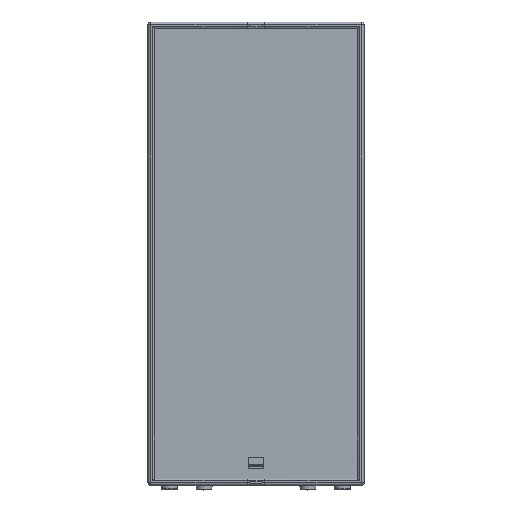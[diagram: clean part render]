
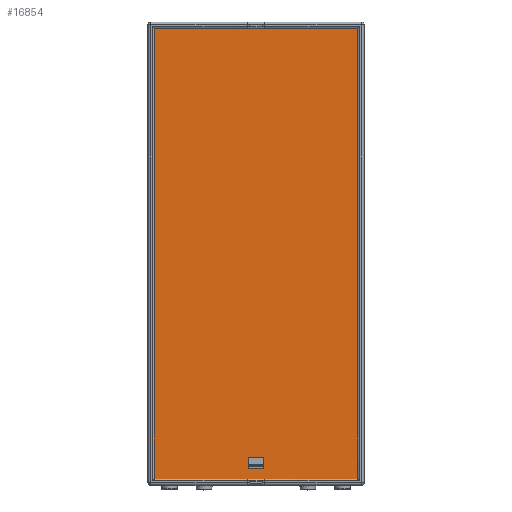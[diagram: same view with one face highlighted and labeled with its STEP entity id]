
A CAD part, top view. The second image highlights one B-rep face of the part: STEP entity #16854.
In plain terms, the highlighted planar face has unit normal (0, 0, 1) as drawn and (0, -1, 0) by its records, which use the part's own axes.
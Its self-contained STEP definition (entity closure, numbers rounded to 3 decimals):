
#5958 = DIRECTION ( 'NONE',  ( 0., 0., -1. ) ) ;
#5959 = DIRECTION ( 'NONE',  ( 0., -1., 0. ) ) ;
#5960 = CARTESIAN_POINT ( 'NONE',  ( 497., 4., 0. ) ) ;
#5961 = AXIS2_PLACEMENT_3D ( 'NONE', #5960, #5959, #5958 ) ;
#5962 = PLANE ( 'NONE',  #5961 ) ;
#5963 = FACE_OUTER_BOUND ( 'NONE', #16855, .T. ) ;
#6021 = CARTESIAN_POINT ( 'NONE',  ( 497., 4., 0. ) ) ;
#6022 = DIRECTION ( 'NONE',  ( -1., 0., 0. ) ) ;
#6023 = VECTOR ( 'NONE', #6022, 1000. ) ;
#6024 = CARTESIAN_POINT ( 'NONE',  ( 256., 4., 0. ) ) ;
#6025 = LINE ( 'NONE', #6024, #6023 ) ;
#6071 = DIRECTION ( 'NONE',  ( 0., 0., 1. ) ) ;
#6072 = VECTOR ( 'NONE', #6071, 1000. ) ;
#6073 = CARTESIAN_POINT ( 'NONE',  ( 15., 4., 0. ) ) ;
#6074 = LINE ( 'NONE', #6073, #6072 ) ;
#6075 = CARTESIAN_POINT ( 'NONE',  ( 15., 4., 1068. ) ) ;
#6076 = DIRECTION ( 'NONE',  ( -1., 0., 0. ) ) ;
#6077 = VECTOR ( 'NONE', #6076, 1000. ) ;
#6078 = CARTESIAN_POINT ( 'NONE',  ( 15., 4., 1068. ) ) ;
#6079 = LINE ( 'NONE', #6078, #6077 ) ;
#6080 = CARTESIAN_POINT ( 'NONE',  ( 497., 4., 1068. ) ) ;
#6081 = DIRECTION ( 'NONE',  ( 0., 0., -1. ) ) ;
#6082 = VECTOR ( 'NONE', #6081, 1000. ) ;
#6083 = CARTESIAN_POINT ( 'NONE',  ( 497., 4., 0. ) ) ;
#6084 = LINE ( 'NONE', #6083, #6082 ) ;
#6085 = CARTESIAN_POINT ( 'NONE',  ( 15., 4., 0. ) ) ;
#16854 = ADVANCED_FACE ( 'NONE', ( #5963 ), #5962, .T. ) ;
#16855 = EDGE_LOOP ( 'NONE', ( #16856, #16910, #16913, #16916 ) ) ;
#16856 = ORIENTED_EDGE ( 'NONE', *, *, #16857, .F. ) ;
#16857 = EDGE_CURVE ( 'NONE', #16858, #16909, #6025, .T. ) ;
#16858 = VERTEX_POINT ( 'NONE', #6021 ) ;
#16909 = VERTEX_POINT ( 'NONE', #6085 ) ;
#16910 = ORIENTED_EDGE ( 'NONE', *, *, #16911, .F. ) ;
#16911 = EDGE_CURVE ( 'NONE', #16912, #16858, #6084, .T. ) ;
#16912 = VERTEX_POINT ( 'NONE', #6080 ) ;
#16913 = ORIENTED_EDGE ( 'NONE', *, *, #16914, .T. ) ;
#16914 = EDGE_CURVE ( 'NONE', #16912, #16915, #6079, .T. ) ;
#16915 = VERTEX_POINT ( 'NONE', #6075 ) ;
#16916 = ORIENTED_EDGE ( 'NONE', *, *, #16917, .F. ) ;
#16917 = EDGE_CURVE ( 'NONE', #16909, #16915, #6074, .T. ) ;
